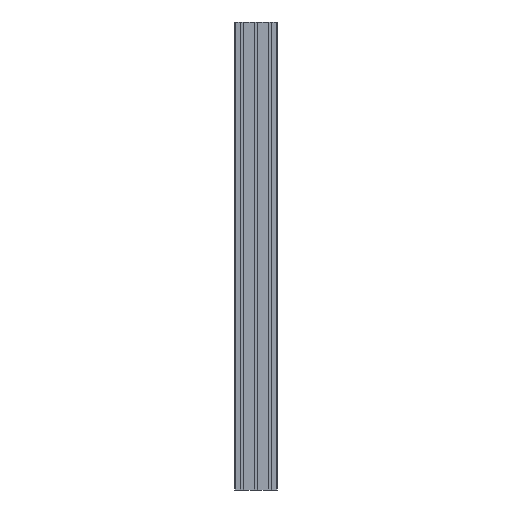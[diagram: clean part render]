
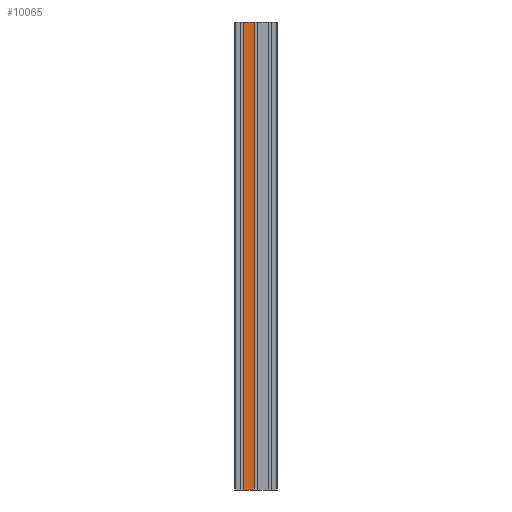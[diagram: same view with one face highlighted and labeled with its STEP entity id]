
A CAD part, front view. The second image highlights one B-rep face of the part: STEP entity #10065.
In plain terms, the highlighted planar face has unit normal (0, -1, 0).
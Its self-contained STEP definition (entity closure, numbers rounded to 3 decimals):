
#204 = DIRECTION ( 'NONE',  ( 1., 0., 0. ) ) ;
#1116 = ORIENTED_EDGE ( 'NONE', *, *, #3438, .T. ) ;
#1341 = VERTEX_POINT ( 'NONE', #4289 ) ;
#2230 = ORIENTED_EDGE ( 'NONE', *, *, #9523, .T. ) ;
#2923 = DIRECTION ( 'NONE',  ( 0., 0., 1. ) ) ;
#2994 = DIRECTION ( 'NONE',  ( 0., -1., 0. ) ) ;
#3287 = ORIENTED_EDGE ( 'NONE', *, *, #3731, .F. ) ;
#3400 = EDGE_CURVE ( 'NONE', #1341, #9633, #11696, .T. ) ;
#3438 = EDGE_CURVE ( 'NONE', #4257, #9633, #4028, .T. ) ;
#3731 = EDGE_CURVE ( 'NONE', #4257, #5346, #7926, .T. ) ;
#3776 = VECTOR ( 'NONE', #2923, 1000. ) ;
#3892 = PLANE ( 'NONE',  #5357 ) ;
#4028 = LINE ( 'NONE', #11787, #4326 ) ;
#4257 = VERTEX_POINT ( 'NONE', #6883 ) ;
#4289 = CARTESIAN_POINT ( 'NONE',  ( -9.65, -9., 0. ) ) ;
#4326 = VECTOR ( 'NONE', #6277, 1000. ) ;
#4618 = VECTOR ( 'NONE', #6093, 1000. ) ;
#5165 = CARTESIAN_POINT ( 'NONE',  ( -6., -9., 0. ) ) ;
#5346 = VERTEX_POINT ( 'NONE', #8844 ) ;
#5357 = AXIS2_PLACEMENT_3D ( 'NONE', #8536, #2994, #9462 ) ;
#5657 = FACE_OUTER_BOUND ( 'NONE', #11677, .T. ) ;
#5812 = CARTESIAN_POINT ( 'NONE',  ( -6., -9., 1000. ) ) ;
#6093 = DIRECTION ( 'NONE',  ( -1., 0., 0. ) ) ;
#6277 = DIRECTION ( 'NONE',  ( 0., 0., -1. ) ) ;
#6883 = CARTESIAN_POINT ( 'NONE',  ( -32.35, -9., 1000. ) ) ;
#7926 = LINE ( 'NONE', #5812, #10677 ) ;
#8478 = ORIENTED_EDGE ( 'NONE', *, *, #3400, .F. ) ;
#8536 = CARTESIAN_POINT ( 'NONE',  ( -9.65, -9., 0. ) ) ;
#8683 = LINE ( 'NONE', #10318, #3776 ) ;
#8844 = CARTESIAN_POINT ( 'NONE',  ( -9.65, -9., 1000. ) ) ;
#9462 = DIRECTION ( 'NONE',  ( 0., 0., -1. ) ) ;
#9523 = EDGE_CURVE ( 'NONE', #1341, #5346, #8683, .T. ) ;
#9633 = VERTEX_POINT ( 'NONE', #11403 ) ;
#10065 = ADVANCED_FACE ( 'NONE', ( #5657 ), #3892, .T. ) ;
#10318 = CARTESIAN_POINT ( 'NONE',  ( -9.65, -9., 0. ) ) ;
#10677 = VECTOR ( 'NONE', #204, 1000. ) ;
#11403 = CARTESIAN_POINT ( 'NONE',  ( -32.35, -9., 0. ) ) ;
#11677 = EDGE_LOOP ( 'NONE', ( #8478, #2230, #3287, #1116 ) ) ;
#11696 = LINE ( 'NONE', #5165, #4618 ) ;
#11787 = CARTESIAN_POINT ( 'NONE',  ( -32.35, -9., 0. ) ) ;
